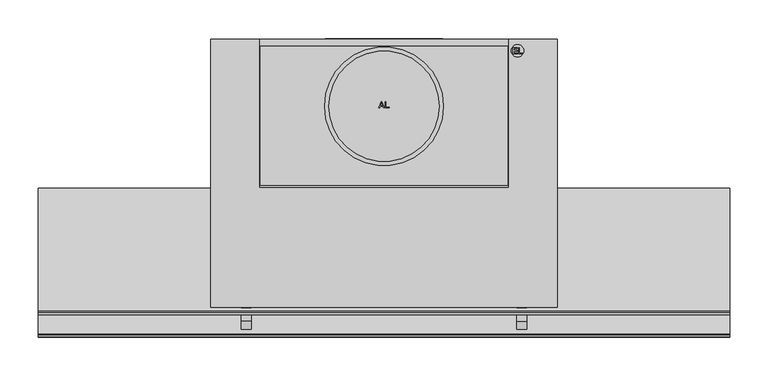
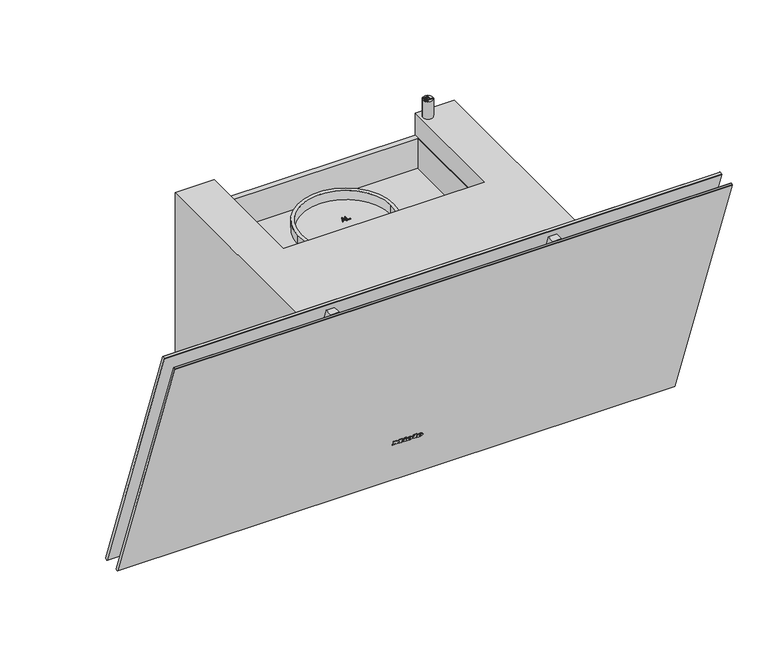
"""IFC4 building model written with IfcOpenShell, lengths in millimetres: proxy geometry, 12533990_D_DAH2960EXTA_OBSW : 28H2961B_D_12533990_DAH2960EXTA_OBSW."""

from ifc_helpers import new_model, si_unit, point, frame, frame_2d, origin, origin_with_axes, place, context, project, spatial, polyline, circle_curve, ellipse_curve, trimmed, segment, composite_curve, outline, extrude, faceted_brep, source, transform, mapped, element, save
from ifc_brep_helpers import plane_surface, cylinder_surface, revolved_surface, extruded_surface, advanced_brep


def specialty_equipment_7b2512ea(model_context):
    return source(origin(), model_context, "Body", "SolidModel", [
        extrude(outline(polyline([(0.0, 0.0), (0.968, 0.0), (0.968, 5.352), (0.0, 5.352), (0.0, 6.696), (3.52, 6.696), (3.52, 5.352), (2.56, 5.352), (2.56, 1.9488753), (6.136, 6.696), (9.728, 1.8807777), (9.728, 5.352), (8.744, 5.352), (8.744, 6.696), (15.128, 6.696), (15.128, 5.352), (14.112, 5.352), (14.112, 0.0), (15.128, 0.0), (15.128, -1.304), (10.256, -1.304), (7.92, 1.696), (5.576, -1.304), (0.0, -1.304), (0.0, 0.0)])), frame((-24.271984, -261.1380975, 82.2921818), z_axis=(0.0, 0.9396926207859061, 0.34202014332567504), x_axis=(1.0, 0.0, 0.0)), (0.0, 0.0, 1.0), 1.0),
        extrude(outline(polyline([(0.0, 0.0), (0.96, 0.0), (0.96, 5.352), (0.0, 5.352), (0.0, 6.696), (6.488, 6.696), (6.488, 5.352), (5.504, 5.352), (5.504, -1.304), (0.0, -1.304), (0.0, 0.0)])), frame((8.192016, -261.1380975, 82.2921818), z_axis=(0.0, 0.9396926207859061, 0.34202014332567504), x_axis=(1.0, 0.0, 0.0)), (0.0, 0.0, 1.0), 1.0),
        extrude(outline(polyline([(0.0, 0.0), (1.4315306, 0.0), (1.4390414, -2.9920869), (0.0109086, -2.9993294), (0.0, 0.0)])), frame((-6.351984, -261.4226582, 83.074006), z_axis=(0.0, 0.9396926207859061, 0.342020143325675), x_axis=(0.42472021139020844, 0.30963927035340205, -0.8507269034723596)), (0.0, 0.0, 1.0), 1.0),
        extrude(outline(polyline([(0.4933907, 2.4141097), (1.7898156, 3.022309), (2.1941493, 2.1604399), (5.1636141, 3.5535222), (4.7592805, 4.4153913), (5.9760369, 4.9862153), (8.6568708, -0.728194), (7.4401145, -1.299018), (7.0459741, -0.4588767), (2.7800843, -2.4601583), (0.4933907, 2.4141097)])), frame((-6.351984, -261.4226582, 83.074006), z_axis=(0.0, 0.9396926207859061, 0.342020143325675), x_axis=(0.42472021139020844, 0.30963927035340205, -0.8507269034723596)), (0.0, 0.0, 1.0), 1.0),
        advanced_brep(
        [(2.392016, -259.4964008, 77.7816572), (2.392016, -259.7727531, 78.5409288), (7.744016, -259.7727531, 78.5409288), (-1.567984, -259.7727531, 78.5409288), (0.632016, -258.8479306, 76.0), (7.608016, -259.4964008, 77.7816572), (5.192016, -259.4964008, 77.7816572), (3.288016, -259.1899507, 76.9396926), (2.392016, -260.1229817, 79.5031741), (2.392016, -260.4212233, 80.3225861), (3.760016, -260.4212233, 80.3225861), (3.760016, -260.1229817, 79.5031741), (2.392016, -258.5567082, 78.1236774), (3.288016, -258.2502581, 77.2817128), (5.192016, -258.5567082, 78.1236774), (7.608016, -258.5567082, 78.1236774), (0.632016, -257.908238, 76.3420201), (-1.567984, -258.8330604, 78.882949), (7.744016, -258.8330604, 78.882949), (2.392016, -258.8330604, 78.882949), (2.392016, -259.1832891, 79.8451942), (3.760016, -259.1832891, 79.8451942), (3.760016, -259.4815306, 80.6646062), (2.392016, -259.4815306, 80.6646062)],
        [
            (0, 1),
            (1, 2),
            (2, 3, ellipse_curve(frame((3.088016, -259.7727531, 78.5409288), z_axis=(0.0, -0.9396926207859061, -0.34202014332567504), x_axis=(-1.0, 0.0, 0.0)), 4.656, 3.848)),
            (3, 4, circle_curve(frame((1.5280596, -259.8657825, 78.7965252), z_axis=(0.0, -0.9396926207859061, -0.34202014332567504), x_axis=(0.0, 0.34202014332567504, -0.9396926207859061)), 3.1079688)),
            (4, 5, circle_curve(frame((2.9948096, -260.5881291, 80.7811561), z_axis=(0.0, -0.9396926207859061, -0.34202014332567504), x_axis=(0.0, 0.34202014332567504, -0.9396926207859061)), 5.6098607)),
            (5, 6),
            (6, 7, circle_curve(frame((3.6790748, -259.7508638, 78.4807885), z_axis=(0.0, 0.9396926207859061, 0.34202014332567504), x_axis=(0.0, 0.34202014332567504, -0.9396926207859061)), 1.6859795)),
            (7, 0, circle_curve(frame((3.288016, -259.4964008, 77.7816572), z_axis=(0.0, 0.9396926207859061, 0.34202014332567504), x_axis=(0.0, 0.34202014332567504, -0.9396926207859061)), 0.896)),
            (8, 9),
            (9, 10, circle_curve(frame((3.076016, -260.4212233, 80.3225861), z_axis=(0.0, 0.9396926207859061, 0.34202014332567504), x_axis=(0.0, 0.34202014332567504, -0.9396926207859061)), 0.684)),
            (10, 11),
            (11, 8),
            (12, 13, circle_curve(frame((3.288016, -258.5567082, 78.1236774), z_axis=(0.0, -0.9396926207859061, -0.34202014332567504), x_axis=(0.0, 0.34202014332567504, -0.9396926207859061)), 0.896)),
            (13, 14, circle_curve(frame((3.6790748, -258.8111712, 78.8228087), z_axis=(0.0, -0.9396926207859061, -0.34202014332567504), x_axis=(0.0, 0.34202014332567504, -0.9396926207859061)), 1.6859795)),
            (14, 15),
            (15, 16, circle_curve(frame((2.9948096, -259.6484365, 81.1231762), z_axis=(0.0, 0.9396926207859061, 0.34202014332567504), x_axis=(0.0, 0.34202014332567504, -0.9396926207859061)), 5.6098607)),
            (16, 17, circle_curve(frame((1.5280596, -258.9260899, 79.1385454), z_axis=(0.0, 0.9396926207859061, 0.34202014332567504), x_axis=(0.0, 0.34202014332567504, -0.9396926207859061)), 3.1079688)),
            (17, 18, ellipse_curve(frame((3.088016, -258.8330604, 78.882949), z_axis=(0.0, 0.9396926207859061, 0.34202014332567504), x_axis=(-1.0, 0.0, 0.0)), 4.656, 3.848)),
            (18, 19),
            (19, 12),
            (20, 21),
            (21, 22),
            (22, 23, circle_curve(frame((3.076016, -259.4815306, 80.6646062), z_axis=(0.0, -0.9396926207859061, -0.34202014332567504), x_axis=(0.0, 0.34202014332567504, -0.9396926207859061)), 0.684)),
            (23, 20),
            (0, 12),
            (19, 1),
            (18, 2),
            (5, 15),
            (14, 6),
            (17, 3),
            (13, 7),
            (16, 4),
            (8, 20),
            (23, 9),
            (22, 10),
            (21, 11),
        ],
        [
            plane_surface(frame((2.392016, -259.7727531, 78.5409288), z_axis=(0.0, -0.9396926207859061, -0.34202014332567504), x_axis=(0.0, -0.34202014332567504, 0.9396926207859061))),
            plane_surface(frame((2.392016, -258.8330604, 78.882949), z_axis=(0.0, 0.9396926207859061, 0.34202014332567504), x_axis=(0.0, 0.34202014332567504, -0.9396926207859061))),
            plane_surface(frame((2.392016, -259.4964008, 77.7816572), z_axis=(1.0, 0.0, 0.0), x_axis=(0.0, 0.9396926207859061, 0.34202014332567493))),
            plane_surface(frame((2.392016, -259.7727531, 78.5409288), z_axis=(0.0, 0.34202014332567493, -0.9396926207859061), x_axis=(0.0, 0.9396926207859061, 0.34202014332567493))),
            plane_surface(frame((7.608016, -259.4964008, 77.7816572), z_axis=(0.0, -0.34202014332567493, 0.9396926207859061), x_axis=(0.0, 0.9396926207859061, 0.34202014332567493))),
            extruded_surface(trimmed(ellipse_curve(frame((3.088016, -257.8933678, 79.2249691), z_axis=(0.0, -0.9396926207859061, -0.34202014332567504), x_axis=(-1.0, 0.0, 0.0)), 4.656, 3.848), [point((7.744016, -257.8933678, 79.2249691))], [point((-1.567984, -257.8933678, 79.2249691))], True, "CARTESIAN"), (0.0, -0.9396926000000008, -0.34202009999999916), 0.9999999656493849),
            revolved_surface(polyline([(3.6790748, -258.2345321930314, 77.23850622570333), (3.6790748, -259.1742248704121, 76.89648606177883)]), (3.6790748, -258.8111712, 78.8228087), (0.0, 0.9396926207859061, 0.34202014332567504)),
            revolved_surface(polyline([(3.288016, -258.25025810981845, 77.28171282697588), (3.288016, -259.1899507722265, 76.93969266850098)]), (3.288016, -258.5567082, 78.1236774), (0.0, 0.9396926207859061, 0.34202014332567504)),
            cylinder_surface(frame((1.5280596, -258.9260899, 79.1385454), z_axis=(0.0, -0.9396926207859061, -0.34202014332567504), x_axis=(0.0, 0.34202014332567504, -0.9396926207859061)), 3.1079688),
            cylinder_surface(frame((2.9948096, -259.6484365, 81.1231762), z_axis=(0.0, -0.9396926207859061, -0.34202014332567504), x_axis=(0.0, 0.34202014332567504, -0.9396926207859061)), 5.6098607),
            plane_surface(frame((2.392016, -260.1229817, 79.5031741), z_axis=(1.0, 0.0, 0.0), x_axis=(0.0, 0.9396926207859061, 0.34202014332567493))),
            revolved_surface(polyline([(3.076016, -259.2475888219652, 80.02185644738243), (3.076016, -260.1872814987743, 79.67983628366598)]), (3.076016, -259.4815306, 80.6646062), (0.0, 0.9396926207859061, 0.34202014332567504)),
            plane_surface(frame((3.760016, -260.4212233, 80.3225861), z_axis=(-1.0, 0.0, 0.0), x_axis=(0.0, 0.9396926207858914, 0.3420201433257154))),
            plane_surface(frame((3.760016, -260.1229817, 79.5031741), z_axis=(0.0, -0.34202014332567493, 0.9396926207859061), x_axis=(0.0, 0.9396926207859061, 0.34202014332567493))),
        ],
        [
            (0, [[1, 2, 3, 4, 5, 6, 7, 8], [9, 10, 11, 12]]),
            (1, [[13, 14, 15, 16, 17, 18, 19, 20], [21, 22, 23, 24]]),
            (2, [[-1, 25, -20, 26]]),
            (3, [[-2, -26, -19, 27]]),
            (4, [[-6, 28, -15, 29]]),
            (5, [[-3, -27, -18, 30]]),
            (6, [[-7, -29, -14, 31]]),
            (7, [[-8, -31, -13, -25]]),
            (8, [[-4, -30, -17, 32]]),
            (9, [[-5, -32, -16, -28]]),
            (10, [[-9, 33, -24, 34]]),
            (11, [[-10, -34, -23, 35]]),
            (12, [[-11, -35, -22, 36]]),
            (13, [[-12, -36, -21, -33]]),
        ],
    ),
        advanced_brep(
        [(19.088016, -259.4964008, 77.7816572), (19.088016, -259.7727531, 78.5409288), (24.440016, -259.7727531, 78.5409288), (15.128016, -259.7727531, 78.5409288), (17.328016, -258.8479306, 76.0), (24.304016, -259.4964008, 77.7816572), (21.888016, -259.4964008, 77.7816572), (19.984016, -259.1899507, 76.9396926), (19.088016, -260.1229817, 79.5031741), (19.088016, -260.4212233, 80.3225861), (20.456016, -260.4212233, 80.3225861), (20.456016, -260.1229817, 79.5031741), (19.088016, -258.5567082, 78.1236774), (19.984016, -258.2502581, 77.2817128), (21.888016, -258.5567082, 78.1236774), (24.304016, -258.5567082, 78.1236774), (17.328016, -257.908238, 76.3420201), (15.128016, -258.8330604, 78.882949), (24.440016, -258.8330604, 78.882949), (19.088016, -258.8330604, 78.882949), (19.088016, -259.1832891, 79.8451942), (20.456016, -259.1832891, 79.8451942), (20.456016, -259.4815306, 80.6646062), (19.088016, -259.4815306, 80.6646062)],
        [
            (0, 1),
            (1, 2),
            (2, 3, ellipse_curve(frame((19.784016, -259.7727531, 78.5409288), z_axis=(0.0, -0.9396926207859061, -0.34202014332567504), x_axis=(-1.0, 0.0, 0.0)), 4.656, 3.848)),
            (3, 4, circle_curve(frame((18.2240596, -259.8657825, 78.7965252), z_axis=(0.0, -0.9396926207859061, -0.34202014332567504), x_axis=(0.0, 0.34202014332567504, -0.9396926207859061)), 3.1079688)),
            (4, 5, circle_curve(frame((19.6908096, -260.5881291, 80.7811561), z_axis=(0.0, -0.9396926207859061, -0.34202014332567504), x_axis=(0.0, 0.34202014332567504, -0.9396926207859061)), 5.6098607)),
            (5, 6),
            (6, 7, circle_curve(frame((20.3750748, -259.7508638, 78.4807885), z_axis=(0.0, 0.9396926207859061, 0.34202014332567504), x_axis=(0.0, 0.34202014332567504, -0.9396926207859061)), 1.6859795)),
            (7, 0, circle_curve(frame((19.984016, -259.4964008, 77.7816572), z_axis=(0.0, 0.9396926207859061, 0.34202014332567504), x_axis=(0.0, 0.34202014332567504, -0.9396926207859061)), 0.896)),
            (8, 9),
            (9, 10, circle_curve(frame((19.772016, -260.4212233, 80.3225861), z_axis=(0.0, 0.9396926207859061, 0.34202014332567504), x_axis=(0.0, 0.34202014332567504, -0.9396926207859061)), 0.684)),
            (10, 11),
            (11, 8),
            (12, 13, circle_curve(frame((19.984016, -258.5567082, 78.1236774), z_axis=(0.0, -0.9396926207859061, -0.34202014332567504), x_axis=(0.0, 0.34202014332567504, -0.9396926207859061)), 0.896)),
            (13, 14, circle_curve(frame((20.3750748, -258.8111712, 78.8228087), z_axis=(0.0, -0.9396926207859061, -0.34202014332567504), x_axis=(0.0, 0.34202014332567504, -0.9396926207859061)), 1.6859795)),
            (14, 15),
            (15, 16, circle_curve(frame((19.6908096, -259.6484365, 81.1231762), z_axis=(0.0, 0.9396926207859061, 0.34202014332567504), x_axis=(0.0, 0.34202014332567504, -0.9396926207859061)), 5.6098607)),
            (16, 17, circle_curve(frame((18.2240596, -258.9260899, 79.1385454), z_axis=(0.0, 0.9396926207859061, 0.34202014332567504), x_axis=(0.0, 0.34202014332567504, -0.9396926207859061)), 3.1079688)),
            (17, 18, ellipse_curve(frame((19.784016, -258.8330604, 78.882949), z_axis=(0.0, 0.9396926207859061, 0.34202014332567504), x_axis=(-1.0, 0.0, 0.0)), 4.656, 3.848)),
            (18, 19),
            (19, 12),
            (20, 21),
            (21, 22),
            (22, 23, circle_curve(frame((19.772016, -259.4815306, 80.6646062), z_axis=(0.0, -0.9396926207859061, -0.34202014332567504), x_axis=(0.0, 0.34202014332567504, -0.9396926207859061)), 0.684)),
            (23, 20),
            (0, 12),
            (19, 1),
            (18, 2),
            (5, 15),
            (14, 6),
            (17, 3),
            (13, 7),
            (16, 4),
            (8, 20),
            (23, 9),
            (22, 10),
            (21, 11),
        ],
        [
            plane_surface(frame((19.088016, -259.7727531, 78.5409288), z_axis=(0.0, -0.9396926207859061, -0.34202014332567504), x_axis=(0.0, -0.34202014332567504, 0.9396926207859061))),
            plane_surface(frame((19.088016, -258.8330604, 78.882949), z_axis=(0.0, 0.9396926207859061, 0.34202014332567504), x_axis=(0.0, 0.34202014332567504, -0.9396926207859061))),
            plane_surface(frame((19.088016, -259.4964008, 77.7816572), z_axis=(1.0, 0.0, 0.0), x_axis=(0.0, 0.9396926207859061, 0.34202014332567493))),
            plane_surface(frame((19.088016, -259.7727531, 78.5409288), z_axis=(0.0, 0.34202014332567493, -0.9396926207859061), x_axis=(0.0, 0.9396926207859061, 0.34202014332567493))),
            plane_surface(frame((24.304016, -259.4964008, 77.7816572), z_axis=(0.0, -0.34202014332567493, 0.9396926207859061), x_axis=(0.0, 0.9396926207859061, 0.34202014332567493))),
            extruded_surface(trimmed(ellipse_curve(frame((19.784016, -257.8933678, 79.2249691), z_axis=(0.0, -0.9396926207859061, -0.34202014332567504), x_axis=(-1.0, 0.0, 0.0)), 4.656, 3.848), [point((24.440016, -257.8933678, 79.2249691))], [point((15.128016, -257.8933678, 79.2249691))], True, "CARTESIAN"), (0.0, -0.9396926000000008, -0.34202009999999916), 0.9999999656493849),
            revolved_surface(polyline([(20.3750748, -258.2345321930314, 77.23850622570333), (20.3750748, -259.1742248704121, 76.89648606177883)]), (20.3750748, -258.8111712, 78.8228087), (0.0, 0.9396926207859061, 0.34202014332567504)),
            revolved_surface(polyline([(19.984016, -258.25025810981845, 77.28171282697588), (19.984016, -259.1899507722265, 76.93969266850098)]), (19.984016, -258.5567082, 78.1236774), (0.0, 0.9396926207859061, 0.34202014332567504)),
            cylinder_surface(frame((18.2240596, -258.9260899, 79.1385454), z_axis=(0.0, -0.9396926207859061, -0.34202014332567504), x_axis=(0.0, 0.34202014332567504, -0.9396926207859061)), 3.1079688),
            cylinder_surface(frame((19.6908096, -259.6484365, 81.1231762), z_axis=(0.0, -0.9396926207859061, -0.34202014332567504), x_axis=(0.0, 0.34202014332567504, -0.9396926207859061)), 5.6098607),
            plane_surface(frame((19.088016, -260.1229817, 79.5031741), z_axis=(1.0, 0.0, 0.0), x_axis=(0.0, 0.9396926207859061, 0.34202014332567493))),
            revolved_surface(polyline([(19.772016, -259.2475888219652, 80.02185644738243), (19.772016, -260.1872814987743, 79.67983628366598)]), (19.772016, -259.4815306, 80.6646062), (0.0, 0.9396926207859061, 0.34202014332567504)),
            plane_surface(frame((20.456016, -260.4212233, 80.3225861), z_axis=(-1.0, 0.0, 0.0), x_axis=(0.0, 0.9396926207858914, 0.3420201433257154))),
            plane_surface(frame((20.456016, -260.1229817, 79.5031741), z_axis=(0.0, -0.34202014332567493, 0.9396926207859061), x_axis=(0.0, 0.9396926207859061, 0.34202014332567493))),
        ],
        [
            (0, [[1, 2, 3, 4, 5, 6, 7, 8], [9, 10, 11, 12]]),
            (1, [[13, 14, 15, 16, 17, 18, 19, 20], [21, 22, 23, 24]]),
            (2, [[-1, 25, -20, 26]]),
            (3, [[-2, -26, -19, 27]]),
            (4, [[-6, 28, -15, 29]]),
            (5, [[-3, -27, -18, 30]]),
            (6, [[-7, -29, -14, 31]]),
            (7, [[-8, -31, -13, -25]]),
            (8, [[-4, -30, -17, 32]]),
            (9, [[-5, -32, -16, -28]]),
            (10, [[-9, 33, -24, 34]]),
            (11, [[-10, -34, -23, 35]]),
            (12, [[-11, -35, -22, 36]]),
            (13, [[-12, -36, -21, -33]]),
        ],
    ),
        advanced_brep(
        [(-198.5, -231.2422284, 80.5173231), (-198.5, -240.9843308, 107.2835295), (-198.5, -235.8312261, 109.4708926), (-198.5, -225.8887113, 82.1540576), (-198.5, -250.514978, 76.8365225), (-198.5, -258.1140866, 97.7149017), (-198.5, -258.4754112, 96.7430581), (-198.5, -251.4164577, 77.3487429), (-198.5, -254.9459345, 87.0459005), (-198.5, -230.9198317, 95.7906867)],
        [
            (0, 1, circle_curve(frame((-198.5, -236.1132796, 93.9004263), z_axis=(0.0, 0.9396926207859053, 0.3420201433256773), x_axis=(0.0, -0.3420201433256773, 0.9396926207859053)), 14.2420009)),
            (1, 2),
            (2, 3, circle_curve(frame((-198.5, -230.8599687, 95.8124751), z_axis=(0.0, -0.9396926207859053, -0.3420201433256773), x_axis=(0.0, -0.3420201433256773, 0.9396926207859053)), 14.5349844)),
            (3, 0),
            (4, 5, circle_curve(frame((-198.5, -254.3145323, 87.2757121), z_axis=(0.0, 0.9396926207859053, 0.3420201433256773), x_axis=(0.0, -0.3420201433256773, 0.9396926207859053)), 11.1091535)),
            (5, 1),
            (0, 4),
            (6, 7, circle_curve(frame((-198.5, -254.9459345, 87.0459005), z_axis=(0.0, 0.9396926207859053, 0.3420201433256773), x_axis=(0.0, -0.3420201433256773, 0.9396926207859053)), 10.3194996)),
            (7, 4),
            (4, 5, circle_curve(frame((-198.5, -254.3145323, 87.2757121), z_axis=(0.0, -0.9396926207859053, -0.3420201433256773), x_axis=(0.0, -0.3420201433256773, 0.9396926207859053)), 11.1091535)),
            (5, 6),
            (8, 7),
            (6, 8),
            (2, 9),
            (9, 3),
            (2, 3, circle_curve(frame((-198.5, -230.9198317, 95.7906867), z_axis=(0.0, 0.9396926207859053, 0.3420201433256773), x_axis=(0.0, -0.3420201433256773, 0.9396926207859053)), 14.535124)),
            (1, 0, circle_curve(frame((-198.5, -236.1132796, 93.9004263), z_axis=(0.0, 0.9396926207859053, 0.3420201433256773), x_axis=(0.0, -0.3420201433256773, 0.9396926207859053)), 14.2420009)),
            (7, 6, circle_curve(frame((-198.5, -254.9459345, 87.0459005), z_axis=(0.0, 0.9396926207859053, 0.3420201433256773), x_axis=(0.0, -0.3420201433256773, 0.9396926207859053)), 10.3194996)),
        ],
        [
            revolved_surface(polyline([(-198.5, -235.8312261, 109.4708926), (-198.5, -240.9843308, 107.2835295)]), (-198.5, -255.2773841, 86.9252627), (0.0, -0.9396926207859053, -0.3420201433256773)),
            revolved_surface(polyline([(-198.5, -240.9843308, 107.2835295), (-198.5, -258.1140866, 97.7149017)]), (-198.5, -255.2773841, 86.9252627), (0.0, -0.9396926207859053, -0.3420201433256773)),
            revolved_surface(polyline([(-198.5, -258.1140866, 97.7149017), (-198.5, -258.4754112, 96.7430581)]), (-198.5, -255.2773841, 86.9252627), (0.0, -0.9396926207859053, -0.3420201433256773)),
            plane_surface(frame((-198.5, -254.9459345, 87.0459005), z_axis=(0.0, -0.9396926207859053, -0.3420201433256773), x_axis=(0.0, -0.3420201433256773, 0.9396926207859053))),
            plane_surface(frame((-198.5, -230.9198317, 95.7906867), z_axis=(0.0, 0.9396926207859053, 0.3420201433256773), x_axis=(0.0, -0.3420201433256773, 0.9396926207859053))),
        ],
        [
            (0, [[1, 2, 3, 4]]),
            (1, [[5, 6, -1, 7]]),
            (2, [[8, 9, 10, 11]]),
            (3, [[12, -8, 13]]),
            (4, [[-3, 14, 15]]),
            (4, [[16, -15, -14]]),
            (0, [[17, -4, -16, -2]]),
            (1, [[-10, -7, -17, -6]]),
            (2, [[18, -11, -5, -9]]),
            (3, [[-13, -18, -12]]),
        ],
    ),
        advanced_brep(
        [(-198.5, -262.8067778, 105.2732379), (-198.5, -249.4001153, 68.4387353), (-198.5, -252.3199878, 80.8696014), (-198.5, -257.0531232, 93.8737841), (-198.5, -250.699917, 68.232867), (-198.5, -263.9348133, 104.5954458), (-198.5, -257.3173652, 86.4141564), (-198.5, -254.6865555, 87.3716928)],
        [
            (0, 1, circle_curve(frame((-198.5, -256.1034466, 86.8559866), z_axis=(0.0, 0.9396926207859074, 0.34202014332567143), x_axis=(0.0, -0.34202014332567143, 0.9396926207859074)), 19.5992294)),
            (1, 2),
            (2, 3, circle_curve(frame((-198.5, -254.6865555, 87.3716928), z_axis=(0.0, -0.9396926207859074, -0.34202014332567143), x_axis=(0.0, -0.34202014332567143, 0.9396926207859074)), 6.9193811)),
            (3, 0),
            (1, 0, circle_curve(frame((-198.5, -256.1034466, 86.8559866), z_axis=(0.0, 0.9396926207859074, 0.34202014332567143), x_axis=(0.0, -0.34202014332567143, 0.9396926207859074)), 19.5992294)),
            (3, 2, circle_curve(frame((-198.5, -254.6865555, 87.3716928), z_axis=(0.0, -0.9396926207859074, -0.34202014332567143), x_axis=(0.0, -0.34202014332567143, 0.9396926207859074)), 6.9193811)),
            (4, 5, circle_curve(frame((-198.5, -257.3173652, 86.4141564), z_axis=(0.0, 0.9396926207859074, 0.34202014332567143), x_axis=(0.0, -0.34202014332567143, 0.9396926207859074)), 19.3481241)),
            (5, 0),
            (1, 4),
            (5, 4, circle_curve(frame((-198.5, -257.3173652, 86.4141564), z_axis=(0.0, 0.9396926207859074, 0.34202014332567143), x_axis=(0.0, -0.34202014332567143, 0.9396926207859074)), 19.3481241)),
            (6, 5),
            (4, 6),
            (3, 7),
            (7, 2),
        ],
        [
            revolved_surface(polyline([(-198.5, -257.0531232, 93.8737841), (-198.5, -262.8067778, 105.2732379)]), (-198.5, -254.6865555, 87.3716928), (0.0, -0.9396926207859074, -0.34202014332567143)),
            revolved_surface(polyline([(-198.5, -262.8067778, 105.2732379), (-198.5, -263.9348133, 104.5954458)]), (-198.5, -254.6865555, 87.3716928), (0.0, -0.9396926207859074, -0.34202014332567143)),
            plane_surface(frame((-198.5, -257.3173652, 86.4141564), z_axis=(0.0, -0.9396926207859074, -0.34202014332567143), x_axis=(0.0, -0.34202014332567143, 0.9396926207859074))),
            plane_surface(frame((-198.5, -254.6865555, 87.3716928), z_axis=(0.0, 0.9396926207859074, 0.34202014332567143), x_axis=(0.0, -0.34202014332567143, 0.9396926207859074))),
        ],
        [
            (0, [[1, 2, 3, 4]]),
            (0, [[5, -4, 6, -2]]),
            (1, [[7, 8, -5, 9]]),
            (1, [[10, -9, -1, -8]]),
            (2, [[11, -7, 12]]),
            (2, [[-12, -10, -11]]),
            (3, [[-6, 13, 14]]),
            (3, [[-3, -14, -13]]),
        ],
    ),
        advanced_brep(
        [(198.5, -225.9091808, 82.1477994), (198.5, -235.8509293, 109.4625291), (198.5, -240.9843308, 107.2835295), (198.5, -231.2422284, 80.5173231), (198.5, -258.1140866, 97.7149017), (198.5, -250.514978, 76.8365225), (198.5, -230.9018417, 95.8650227), (198.5, -258.4754112, 96.7430581), (198.5, -251.4164577, 77.3487429), (198.5, -254.9459345, 87.0459005)],
        [
            (0, 1, circle_curve(frame((198.5, -230.8800551, 95.8051643), z_axis=(0.0, -0.9396926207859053, -0.3420201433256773), x_axis=(0.0, -0.3420201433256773, 0.9396926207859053)), 14.5338641)),
            (1, 2),
            (2, 3, circle_curve(frame((198.5, -236.1132796, 93.9004263), z_axis=(0.0, 0.9396926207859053, 0.3420201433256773), x_axis=(0.0, -0.3420201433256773, 0.9396926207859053)), 14.2420009)),
            (3, 0),
            (2, 4),
            (4, 5, circle_curve(frame((198.5, -254.3145323, 87.2757121), z_axis=(0.0, 0.9396926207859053, 0.3420201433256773), x_axis=(0.0, -0.3420201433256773, 0.9396926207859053)), 11.1091535)),
            (5, 3),
            (6, 1),
            (0, 6),
            (0, 1, circle_curve(frame((198.5, -230.8800551, 95.8051643), z_axis=(0.0, 0.9396926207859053, 0.3420201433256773), x_axis=(0.0, -0.3420201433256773, 0.9396926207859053)), 14.5338641)),
            (3, 2, circle_curve(frame((198.5, -236.1132796, 93.9004263), z_axis=(0.0, 0.9396926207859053, 0.3420201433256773), x_axis=(0.0, -0.3420201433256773, 0.9396926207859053)), 14.2420009)),
            (5, 4, circle_curve(frame((198.5, -254.3145323, 87.2757121), z_axis=(0.0, 0.9396926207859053, 0.3420201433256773), x_axis=(0.0, -0.3420201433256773, 0.9396926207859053)), 11.1091535)),
            (4, 7),
            (7, 8, circle_curve(frame((198.5, -254.9459345, 87.0459005), z_axis=(0.0, 0.9396926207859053, 0.3420201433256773), x_axis=(0.0, -0.3420201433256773, 0.9396926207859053)), 10.3194996)),
            (8, 5),
            (8, 7, circle_curve(frame((198.5, -254.9459345, 87.0459005), z_axis=(0.0, 0.9396926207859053, 0.3420201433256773), x_axis=(0.0, -0.3420201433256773, 0.9396926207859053)), 10.3194996)),
            (7, 9),
            (9, 8),
        ],
        [
            revolved_surface(polyline([(198.5, -240.9843308, 107.2835295), (198.5, -235.8509293, 109.4625291)]), (198.5, -255.2773841, 86.9252627), (0.0, 0.9396926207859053, 0.3420201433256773)),
            revolved_surface(polyline([(198.5, -258.1140866, 97.7149017), (198.5, -240.9843308, 107.2835295)]), (198.5, -255.2773841, 86.9252627), (0.0, 0.9396926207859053, 0.3420201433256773)),
            plane_surface(frame((198.5, -230.8800551, 95.8051643), z_axis=(0.0, 0.9396926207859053, 0.3420201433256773), x_axis=(0.0, -0.3420201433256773, 0.9396926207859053))),
            revolved_surface(polyline([(198.5, -258.4754112, 96.7430581), (198.5, -258.1140866, 97.7149017)]), (198.5, -255.2773841, 86.9252627), (0.0, 0.9396926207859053, 0.3420201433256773)),
            plane_surface(frame((198.5, -254.9459345, 87.0459005), z_axis=(0.0, -0.9396926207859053, -0.3420201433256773), x_axis=(0.0, -0.3420201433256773, 0.9396926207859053))),
        ],
        [
            (0, [[1, 2, 3, 4]]),
            (1, [[-3, 5, 6, 7]]),
            (2, [[8, -1, 9]]),
            (2, [[-9, 10, -8]]),
            (0, [[-10, -4, 11, -2]]),
            (1, [[-11, -7, 12, -5]]),
            (3, [[-6, 13, 14, 15]]),
            (3, [[-12, -15, 16, -13]]),
            (4, [[-14, 17, 18]]),
            (4, [[-16, -18, -17]]),
        ],
    ),
        advanced_brep(
        [(198.5, -252.3199878, 80.8696014), (198.5, -257.0531232, 93.8737841), (198.5, -262.8067778, 105.2732379), (198.5, -249.4001153, 68.4387353), (198.5, -263.9348133, 104.5954458), (198.5, -250.699917, 68.232867), (198.5, -257.3173652, 86.4141564), (198.5, -254.6865555, 87.3716928)],
        [
            (0, 1, circle_curve(frame((198.5, -254.6865555, 87.3716928), z_axis=(0.0, -0.9396926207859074, -0.34202014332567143), x_axis=(0.0, -0.34202014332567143, 0.9396926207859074)), 6.9193811)),
            (1, 2),
            (2, 3, circle_curve(frame((198.5, -256.1034466, 86.8559866), z_axis=(0.0, 0.9396926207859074, 0.34202014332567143), x_axis=(0.0, -0.34202014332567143, 0.9396926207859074)), 19.5992294)),
            (3, 0),
            (1, 0, circle_curve(frame((198.5, -254.6865555, 87.3716928), z_axis=(0.0, -0.9396926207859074, -0.34202014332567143), x_axis=(0.0, -0.34202014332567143, 0.9396926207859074)), 6.9193811)),
            (3, 2, circle_curve(frame((198.5, -256.1034466, 86.8559866), z_axis=(0.0, 0.9396926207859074, 0.34202014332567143), x_axis=(0.0, -0.34202014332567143, 0.9396926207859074)), 19.5992294)),
            (2, 4),
            (4, 5, circle_curve(frame((198.5, -257.3173652, 86.4141564), z_axis=(0.0, 0.9396926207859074, 0.34202014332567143), x_axis=(0.0, -0.34202014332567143, 0.9396926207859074)), 19.3481241)),
            (5, 3),
            (5, 4, circle_curve(frame((198.5, -257.3173652, 86.4141564), z_axis=(0.0, 0.9396926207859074, 0.34202014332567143), x_axis=(0.0, -0.34202014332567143, 0.9396926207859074)), 19.3481241)),
            (4, 6),
            (6, 5),
            (7, 1),
            (0, 7),
        ],
        [
            revolved_surface(polyline([(198.5, -262.8067778, 105.2732379), (198.5, -257.0531232, 93.8737841)]), (198.5, -254.6865555, 87.3716928), (0.0, 0.9396926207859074, 0.34202014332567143)),
            revolved_surface(polyline([(198.5, -263.9348133, 104.5954458), (198.5, -262.8067778, 105.2732379)]), (198.5, -254.6865555, 87.3716928), (0.0, 0.9396926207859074, 0.34202014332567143)),
            plane_surface(frame((198.5, -257.3173652, 86.4141564), z_axis=(0.0, -0.9396926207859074, -0.34202014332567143), x_axis=(0.0, -0.34202014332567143, 0.9396926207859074))),
            plane_surface(frame((198.5, -254.6865555, 87.3716928), z_axis=(0.0, 0.9396926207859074, 0.34202014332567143), x_axis=(0.0, -0.34202014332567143, 0.9396926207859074))),
        ],
        [
            (0, [[1, 2, 3, 4]]),
            (0, [[5, -4, 6, -2]]),
            (1, [[-3, 7, 8, 9]]),
            (1, [[-6, -9, 10, -7]]),
            (2, [[-8, 11, 12]]),
            (2, [[-10, -12, -11]]),
            (3, [[13, -1, 14]]),
            (3, [[-14, -5, -13]]),
        ],
    ),
        extrude(outline(polyline([(-377.2541471, 415.9959153), (-366.2530147, 420.0), (-348.8949883, 420.0), (-315.0686278, 327.0628384), (-321.2276447, 324.8211395), (-334.9582954, 325.4920509), (-347.6637142, 334.6968691), (-377.2541471, 415.9959153)])), frame((-185.7167767, 0.0, 0.0), z_axis=(1.0, 0.0, 0.0), x_axis=(0.0, 1.0, 0.0)), (0.0, 0.0, 1.0), 13.4088513),
        extrude(outline(polyline([(-377.2541471, 415.9959153), (-366.2530147, 420.0), (-348.8949883, 420.0), (-315.0686278, 327.0628384), (-321.2276447, 324.8211395), (-334.9582954, 325.4920509), (-347.6637142, 334.6968691), (-377.2541471, 415.9959153)])), frame((172.3079253, 0.0, 0.0), z_axis=(1.0, 0.0, 0.0), x_axis=(0.0, 1.0, 0.0)), (0.0, 0.0, 1.0), 13.4088513),
        extrude(outline(polyline([(-387.1323401, 432.8365045), (-384.310791, 433.8634644), (-383.5944926, 433.4158714), (-223.2772642, -7.0520936), (-223.5613092, -7.7920563), (-226.3696341, -8.8142029), (-227.0596169, -8.4158411), (-387.3899893, 432.0882368), (-387.1323401, 432.8365045)])), frame((-449.0, 0.0, 0.0), z_axis=(1.0, 0.0, 0.0), x_axis=(0.0, 1.0, 0.0)), (0.0, 0.0, 1.0), 898.0),
        extrude(outline(polyline([(-357.7500767, 432.8365045), (-354.6517562, 433.9642009), (-353.7790899, 433.4190033), (-193.5484199, -6.8114741), (-193.8719465, -7.7304916), (-196.9340313, -8.8449984), (-197.6773535, -8.4158411), (-358.007726, 432.0882368), (-357.7500767, 432.8365045)])), frame((-449.0, 0.0, 0.0), z_axis=(1.0, 0.0, 0.0), x_axis=(0.0, 1.0, 0.0)), (0.0, 0.0, 1.0), 898.0),
        extrude(outline(polyline([(-287.1198024, 229.753659), (-287.6205942, 218.2841221), (-296.0848836, 210.5280081), (-301.7042998, 208.4827078), (-327.3688694, 278.9955333), (-319.9071972, 281.7113599), (-309.7792372, 280.1072486), (-302.5107089, 272.039827), (-287.1198024, 229.753659)])), frame((182.9499624, 0.0, 0.0), z_axis=(1.0, 0.0, 0.0), x_axis=(0.0, 1.0, 0.0)), (0.0, 0.0, 1.0), 3.1163744),
        extrude(outline(composite_curve([segment(trimmed(circle_curve(frame_2d((0.0, -6.0)), 6.0), [point((0.0, -12.0))], [point((0.0, 0.0))], False, "CARTESIAN"), True, "CONTINUOUS"), segment(trimmed(circle_curve(frame_2d((0.0, -6.0)), 6.0), [point((0.0, 0.0))], [point((0.0, -12.0))], False, "CARTESIAN"), True, "CONTINUOUS")], self_intersect=False)), frame((198.4796168, -304.9287055, 251.8746642), z_axis=(0.0, -0.3420201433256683, 0.9396926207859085), x_axis=(0.0, -0.9396926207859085, -0.3420201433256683)), (0.0, 0.0, 1.0), 126.121517),
        faceted_brep([(225.0000193, -349.0, 420.0), (225.0000193, -196.2332597, 0.0), (225.0000193, 0.0, 0.0), (225.0000193, 0.0, 420.0), (-225.0000193, -349.0, 420.0), (-225.0000193, 0.0, 420.0), (-225.0000193, 0.0, 0.0), (-225.0000193, -196.2332597, 0.0), (176.5, -48.0, 0.0), (-176.5, -48.0, 0.0), (-176.5, -181.0, 0.0), (176.5, -181.0, 0.0), (125.0, -12.0, 0.0), (-125.0, -12.0, 0.0), (-125.0, -38.0, 0.0), (125.0, -38.0, 0.0), (-162.2229137, 0.0, 420.0), (-162.2229137, 0.0, 382.5), (162.2229137, 0.0, 382.5), (162.2229137, 0.0, 420.0), (-160.9556997, -9.0, 332.0), (160.9556997, -9.0, 332.0), (160.9556997, -9.0, 382.5), (-160.9556997, -9.0, 382.5), (-160.9556997, -190.0399284, 332.0), (-160.9556997, -190.0399284, 382.5), (160.9556997, -190.0399284, 332.0), (160.9556997, -190.0399284, 382.5), (176.5, -48.0, 11.0), (-176.5, -48.0, 11.0), (125.0, -12.0, 11.0), (-125.0, -12.0, 11.0), (162.2229137, -193.2332597, 420.0), (-162.2229137, -193.2332597, 420.0), (176.5, -181.0, 11.0), (-176.5, -181.0, 11.0), (125.0, -38.0, 11.0), (-125.0, -38.0, 11.0), (162.2229137, -193.2332597, 382.5), (-162.2229137, -193.2332597, 382.5)], [[[0, 1, 2, 3]], [[4, 5, 6, 7]], [[1, 0, 4, 7]], [[2, 1, 7, 6], [8, 9, 10, 11], [12, 13, 14, 15]], [[3, 2, 6, 5, 16, 17, 18, 19]], [[20, 21, 22, 23]], [[24, 20, 23, 25]], [[21, 26, 27, 22]], [[28, 29, 9, 8]], [[30, 31, 13, 12]], [[0, 3, 19, 32, 33, 16, 5, 4]], [[21, 20, 24, 26]], [[26, 24, 25, 27]], [[28, 34, 35, 29]], [[29, 35, 10, 9]], [[35, 34, 11, 10]], [[34, 28, 8, 11]], [[30, 36, 37, 31]], [[31, 37, 14, 13]], [[37, 36, 15, 14]], [[36, 30, 12, 15]], [[32, 38, 39, 33]], [[39, 38, 18, 17], [23, 22, 27, 25]], [[38, 32, 19, 18]], [[33, 39, 17, 16]]]),
        extrude(outline(polyline([(125.0, -12.0), (125.0, -38.0), (-125.0, -38.0), (-125.0, -12.0), (125.0, -12.0)]), holes=[polyline([(-119.0, -31.2), (119.0, -31.2), (119.0, -18.8), (-119.0, -18.8), (-119.0, -31.2)])]), origin_with_axes(), (0.0, 0.0, 1.0), 11.0),
        extrude(outline(polyline([(119.0, -18.8), (119.0, -31.2), (-119.0, -31.2), (-119.0, -18.8), (119.0, -18.8)])), origin_with_axes(), (0.0, 0.0, 1.0), 11.0),
        extrude(outline(polyline([(176.5, -48.0), (176.5, -181.0), (-176.5, -181.0), (-176.5, -48.0), (176.5, -48.0)]), holes=[polyline([(167.5, -57.0), (-167.5, -57.0), (-167.5, -172.0), (167.5, -172.0), (167.5, -57.0)])]), origin_with_axes(), (0.0, 0.0, 1.0), 11.0),
        extrude(outline(polyline([(167.5, -57.0), (167.5, -172.0), (-167.5, -172.0), (-167.5, -57.0), (167.5, -57.0)])), frame((0.0, 0.0, 1.0), z_axis=(0.0, 0.0, 1.0), x_axis=(1.0, 0.0, 0.0)), (0.0, 0.0, 1.0), 10.0),
        extrude(outline(polyline([(-167.5, -98.0), (-124.5000193, -98.0), (-124.5000193, -131.0), (-167.5, -131.0), (-167.5, -98.0)]), holes=[polyline([(-131.0000193, -104.5), (-160.0000193, -104.5), (-160.0000193, -124.5), (-131.0000193, -124.5), (-131.0000193, -104.5)])]), origin_with_axes(), (0.0, 0.0, 1.0), 1.0),
        extrude(outline(polyline([(-131.0000193, -104.5), (-131.0000193, -124.5), (-140.0000193, -124.5), (-140.0000193, -104.5), (-131.0000193, -104.5)])), origin_with_axes(), (0.0, 0.0, 1.0), 1.0),
        extrude(outline(composite_curve([segment(trimmed(circle_curve(frame_2d((0.0, -86.9971466)), 77.2963157), [point((-77.2963157, -86.9971466))], [point((77.2963157, -86.9971466))], False, "CARTESIAN"), True, "CONTINUOUS"), segment(trimmed(circle_curve(frame_2d((0.0, -86.9971466)), 77.2963157), [point((77.2963157, -86.9971466))], [point((-77.2963157, -86.9971466))], False, "CARTESIAN"), True, "CONTINUOUS")], self_intersect=False), holes=[composite_curve([segment(trimmed(circle_curve(frame_2d((0.0, -86.9971466)), 71.617422), [point((-71.617422, -86.9971466))], [point((71.617422, -86.9971466))], True, "CARTESIAN"), True, "CONTINUOUS"), segment(trimmed(circle_curve(frame_2d((0.0, -86.9971466)), 71.617422), [point((71.617422, -86.9971466))], [point((-71.617422, -86.9971466))], True, "CARTESIAN"), True, "CONTINUOUS")], self_intersect=False)]), frame((0.0, 0.0, 332.0), z_axis=(0.0, 0.0, 1.0), x_axis=(1.0, 0.0, 0.0)), (0.0, 0.0, 1.0), 15.9326282),
        extrude(outline(polyline([(-6.8377, -89.2416424), (-3.629769, -81.2051375), (-2.7743208, -81.2051375), (0.4336102, -89.2416424), (-0.6278519, -89.2416424), (-1.5480474, -86.7302346), (-4.8580044, -86.7302346), (-5.7762378, -89.2416424), (-6.8377, -89.2416424)]), holes=[polyline([(-4.4891414, -85.7256715), (-1.9149484, -85.7256715), (-2.6389402, -83.7498999), (-3.2020449, -82.2097006), (-3.7023644, -83.5772407), (-4.4891414, -85.7256715)])]), frame((0.0, 0.0, 347.9326282), z_axis=(0.0, 0.0, 1.0), x_axis=(1.0, 0.0, 0.0)), (0.0, 0.0, 1.0), 1.0),
        extrude(outline(polyline([(1.5068447, -89.2416424), (1.5068447, -81.2051375), (2.5114078, -81.2051375), (2.5114078, -88.2370793), (6.5296602, -88.2370793), (6.5296602, -89.2416424), (1.5068447, -89.2416424)])), frame((0.0, 0.0, 347.9326282), z_axis=(0.0, 0.0, 1.0), x_axis=(1.0, 0.0, 0.0)), (0.0, 0.0, 1.0), 1.0),
        extrude(outline(composite_curve([segment(trimmed(circle_curve(frame_2d((192.5519409, 0.0)), 76.1990432), [point((192.5519409, -76.1990432))], [point((192.5519409, 76.1990432))], False, "CARTESIAN"), True, "CONTINUOUS"), segment(trimmed(circle_curve(frame_2d((192.5519409, 0.0)), 76.1990432), [point((192.5519409, 76.1990432))], [point((192.5519409, -76.1990432))], False, "CARTESIAN"), True, "CONTINUOUS")], self_intersect=False)), frame((0.0, 0.0, 0.0), z_axis=(0.0, 1.0, 0.0), x_axis=(0.0, 0.0, 1.0)), (0.0, 0.0, 1.0), 1.0),
        extrude(outline(composite_curve([segment(trimmed(circle_curve(frame_2d((173.4999807, -15.0000005)), 8.0), [point((165.4999807, -15.0000005))], [point((181.4999807, -15.0000005))], False, "CARTESIAN"), True, "CONTINUOUS"), segment(trimmed(circle_curve(frame_2d((173.4999807, -15.0000005)), 8.0), [point((181.4999807, -15.0000005))], [point((165.4999807, -15.0000005))], False, "CARTESIAN"), True, "CONTINUOUS")], self_intersect=False)), frame((0.0, 0.0, 420.0), z_axis=(0.0, 0.0, 1.0), x_axis=(1.0, 0.0, 0.0)), (0.0, 0.0, 1.0), 30.0),
        extrude(outline(polyline([(167.5981725, -19.0000005), (167.5981725, -10.9634957), (173.3744104, -10.9634957), (173.3744104, -11.9680588), (168.6027356, -11.9680588), (168.6027356, -14.3538961), (173.1232696, -14.3538961), (173.1232696, -15.3584592), (168.6027356, -15.3584592), (168.6027356, -17.9954374), (173.4999807, -17.9954374), (173.4999807, -19.0000005), (167.5981725, -19.0000005)])), frame((0.0, 0.0, 450.0), z_axis=(0.0, 0.0, 1.0), x_axis=(1.0, 0.0, 0.0)), (0.0, 0.0, 1.0), 1.0),
        extrude(outline(polyline([(175.0068254, -19.0000005), (175.0068254, -10.9634957), (176.0113885, -10.9634957), (176.0113885, -17.9954374), (180.0296409, -17.9954374), (180.0296409, -19.0000005), (175.0068254, -19.0000005)])), frame((0.0, 0.0, 450.0), z_axis=(0.0, 0.0, 1.0), x_axis=(1.0, 0.0, 0.0)), (0.0, 0.0, 1.0), 1.0),
    ])


if __name__ == "__main__":
    model = new_model("IFC4")
    model_context = context("Model", 3, world=origin())
    ifc_project = project(units=[si_unit("LENGTHUNIT", "METRE", prefix="MILLI")], contexts=[model_context])
    site = spatial("IfcSite", under=ifc_project)
    building = spatial("IfcBuilding", under=site)
    placement = place(None, origin())
    specialty_equipment_shape = specialty_equipment_7b2512ea(model_context)
    element("IfcBuildingElementProxy", 1, Name="12533990_D_DAH2960EXTA_OBSW : 28H2961B_D_12533990_DAH2960EXTA_OBSW", ObjectType="12533990_D_DAH2960EXTA_OBSW : 28H2961B_D_12533990_DAH2960EXTA_OBSW", at=placement, inside=building, context=model_context, shape_type="MappedRepresentation", body=[
        mapped(specialty_equipment_shape, transform((0.0, 0.0, 0.0), x_axis=(1.0, 0.0, 0.0), y_axis=(0.0, 1.0, 0.0), z_axis=(0.0, 0.0, 1.0))),
    ])
    save(model, "model.ifc")
